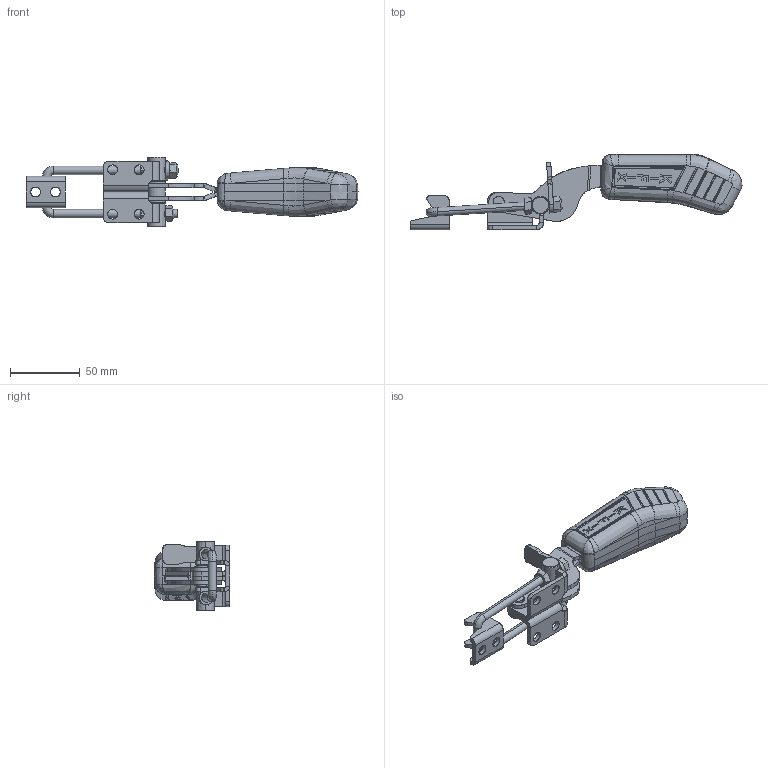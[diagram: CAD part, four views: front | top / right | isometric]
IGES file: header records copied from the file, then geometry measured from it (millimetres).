
Start section: SolidWorks IGES file using analytic representation for surfaces
Global section: file name: C:\Projetos\Grampos\KF-133\KF-133 D\KF-133 D.IGS; native system: SolidWorks 2013; preprocessor: SolidWorks 2013; author: Ricardo; date: 140820.141846; units: millimetre
Bounding box: 237.96 x 54.24 x 50 mm (x, y, z)
Surface area: 48982.8 mm2 (no closed solid volume)
Topology: 0 solids, 0 shells, 722 faces, 7746 edges, 7721 vertices
Faces by surface type: bspline 425, revolution 297
